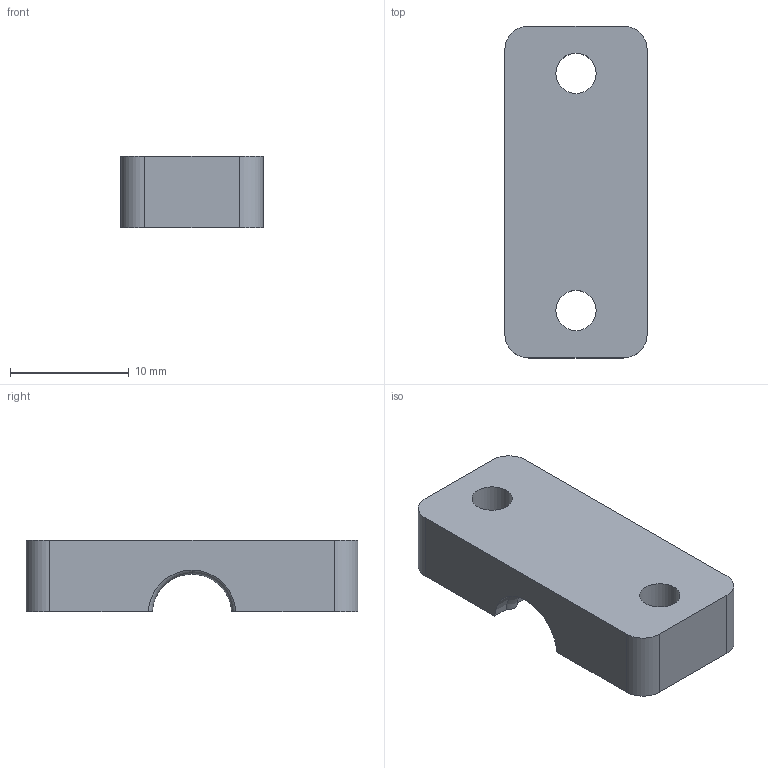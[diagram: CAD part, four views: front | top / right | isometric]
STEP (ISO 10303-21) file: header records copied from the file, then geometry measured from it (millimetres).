
FILE_DESCRIPTION(('FreeCAD Model'),'2;1');
FILE_NAME('Open CASCADE Shape Model','2026-09-29T21:45:29',('Author'),( ''),'Open CASCADE STEP processor 7.8','FreeCAD','Unknown');
FILE_SCHEMA(('AUTOMOTIVE_DESIGN { 1 0 10303 214 1 1 1 1 }'));
Length unit declared in the file: millimetre
Products named in the file (1): strain_relief_upper
Bounding box: 12 x 28 x 6 mm (x, y, z)
Volume: 1656.3 mm3; surface area: 1229.2 mm2
Topology: 1 solids, 1 shells, 23 faces, 65 edges, 44 vertices
Faces by surface type: cylinder 10, plane 7, torus 6
Full cylindrical faces by diameter (mm): 3.4 x2
Entity records: 1246 total; most frequent: CARTESIAN_POINT 607, DIRECTION 138, ORIENTED_EDGE 130, EDGE_CURVE 65, AXIS2_PLACEMENT_3D 55, VERTEX_POINT 44, CIRCLE 31, LINE 28
